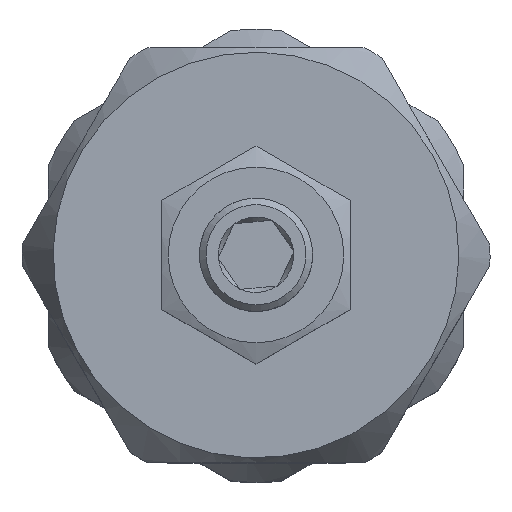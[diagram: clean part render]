
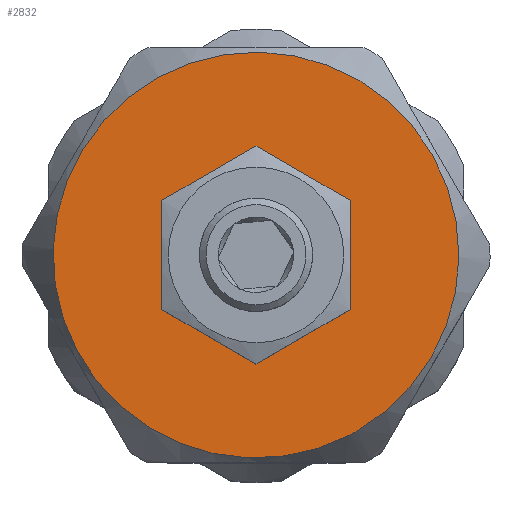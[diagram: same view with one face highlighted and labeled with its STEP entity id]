
A CAD part, top view. The second image highlights one B-rep face of the part: STEP entity #2832.
In plain terms, the highlighted planar face has unit normal (0, 0, 1).
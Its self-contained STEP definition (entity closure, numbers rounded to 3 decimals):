
#624=ORIENTED_EDGE('',*,*,#953,.F.);
#625=ORIENTED_EDGE('',*,*,#952,.F.);
#952=EDGE_CURVE('',#1157,#1157,#1298,.T.);
#953=EDGE_CURVE('',#1158,#1158,#1299,.T.);
#1157=VERTEX_POINT('',#4238);
#1158=VERTEX_POINT('',#4241);
#1298=CIRCLE('',#3044,10.739);
#1299=CIRCLE('',#3046,4.645);
#1464=EDGE_LOOP('',(#624));
#1465=EDGE_LOOP('',(#625));
#1679=FACE_BOUND('',#1464,.T.);
#1680=FACE_BOUND('',#1465,.T.);
#1794=PLANE('',#3045);
#2832=ADVANCED_FACE('',(#1679,#1680),#1794,.T.);
#3044=AXIS2_PLACEMENT_3D('',#4237,#3495,#3496);
#3045=AXIS2_PLACEMENT_3D('',#4239,#3497,#3498);
#3046=AXIS2_PLACEMENT_3D('',#4240,#3499,#3500);
#3495=DIRECTION('',(0.,0.,-1.));
#3496=DIRECTION('',(0.5,-0.866,0.));
#3497=DIRECTION('',(0.,0.,1.));
#3498=DIRECTION('',(0.,-1.,0.));
#3499=DIRECTION('',(0.,0.,1.));
#3500=DIRECTION('',(0.,-1.,0.));
#4237=CARTESIAN_POINT('',(0.,0.,64.576));
#4238=CARTESIAN_POINT('',(5.37,-9.3,64.576));
#4239=CARTESIAN_POINT('',(0.,0.,64.576));
#4240=CARTESIAN_POINT('',(0.,0.,64.576));
#4241=CARTESIAN_POINT('',(0.,-4.645,64.576));
